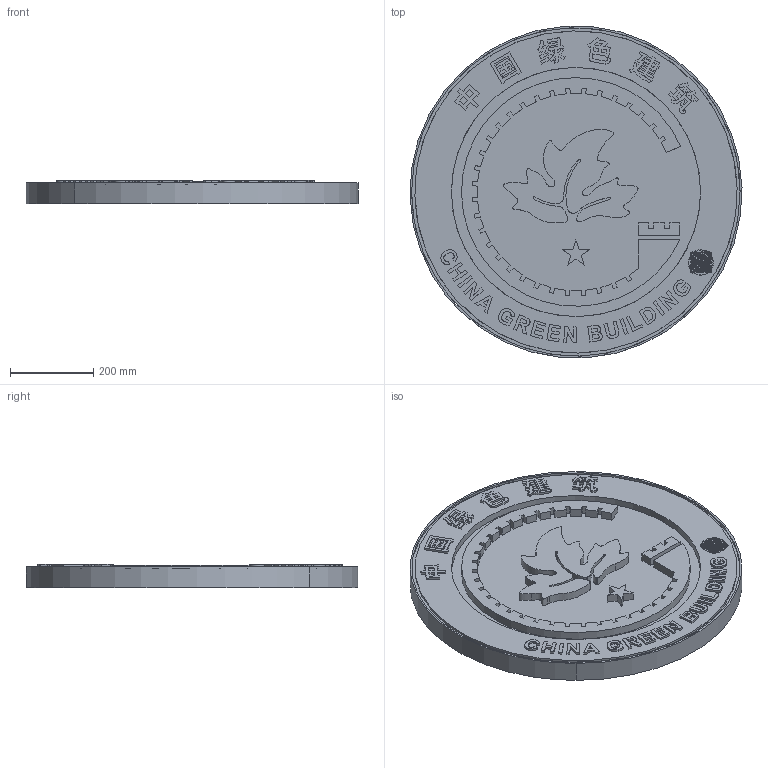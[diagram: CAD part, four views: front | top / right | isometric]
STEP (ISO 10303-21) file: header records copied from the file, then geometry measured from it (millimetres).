
FILE_DESCRIPTION(/* description */ (''),/* implementation_level */ '2;1');
FILE_NAME(/* name */ '一星（~2',/* time_stamp */ '2021-05-12T10:47:34+08:00',/* author */ (''),/* organization */ (''),/* preprocessor_version */ 'ST-DEVELOPER v15',/* originating_system */ '',/* authorisation */ '');
FILE_SCHEMA (('AUTOMOTIVE_DESIGN'));
Length unit declared in the file: millimetre
Products named in the file (1): Document
Bounding box: 799.67 x 798.21 x 55.42 mm (x, y, z)
Volume: 22169351.7 mm3; surface area: 2143291.5 mm2
Topology: 291 solids, 291 shells, 2254 faces, 5016 edges, 3344 vertices
Faces by surface type: bspline 1463, plane 791
Entity records: 80138 total; most frequent: CARTESIAN_POINT 45153, ORIENTED_EDGE 10032, EDGE_CURVE 5016, B_SPLINE_CURVE_WITH_KNOTS 5016, VERTEX_POINT 3344, EDGE_LOOP 2296, ADVANCED_FACE 2254, FACE_OUTER_BOUND 2254
